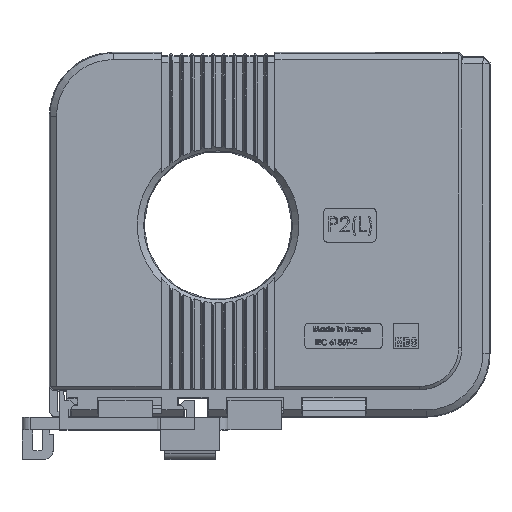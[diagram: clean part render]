
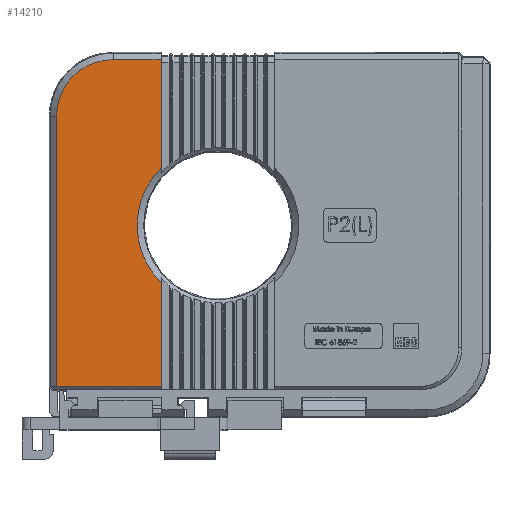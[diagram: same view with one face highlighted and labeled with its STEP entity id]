
A CAD part, top view. The second image highlights one B-rep face of the part: STEP entity #14210.
In plain terms, the highlighted planar face has unit normal (0, 0, 1).
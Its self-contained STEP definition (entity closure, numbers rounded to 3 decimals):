
#922 = LINE ( 'NONE', #26688, #26804 ) ;
#2634 = DIRECTION ( 'NONE',  ( 1., 0., 0. ) ) ;
#3687 = VERTEX_POINT ( 'NONE', #6343 ) ;
#4330 = CIRCLE ( 'NONE', #8411, 19.175 ) ;
#4913 = LINE ( 'NONE', #44698, #41102 ) ;
#5501 = VECTOR ( 'NONE', #44125, 1000. ) ;
#5857 = VERTEX_POINT ( 'NONE', #26895 ) ;
#6343 = CARTESIAN_POINT ( 'NONE',  ( -38.299, -38.232, 15. ) ) ;
#6991 = DIRECTION ( 'NONE',  ( -1., 0., 0. ) ) ;
#7096 = DIRECTION ( 'NONE',  ( 0., 0., -1. ) ) ;
#7142 = VECTOR ( 'NONE', #20150, 1000. ) ;
#7230 = LINE ( 'NONE', #21433, #7142 ) ;
#7441 = PLANE ( 'NONE',  #13428 ) ;
#7591 = CARTESIAN_POINT ( 'NONE',  ( 0., 0., 15. ) ) ;
#8411 = AXIS2_PLACEMENT_3D ( 'NONE', #36544, #15569, #40072 ) ;
#9147 = EDGE_CURVE ( 'NONE', #30299, #34258, #7230, .T. ) ;
#11102 = LINE ( 'NONE', #24660, #27521 ) ;
#11856 = B_SPLINE_CURVE_WITH_KNOTS ( 'NONE', 3,
 ( #39816, #39907, #40024, #39702, #39610, #39409, #39020, #38925, #38805, #38713, #38653, #38610, #38461, #38177, #38123, #38017, #37960, #37920 ),
 .UNSPECIFIED., .F., .F.,
 ( 4, 2, 2, 2, 2, 2, 2, 2, 4 ),
 ( 0., 0.003, 0.005, 0.008, 0.011, 0.013, 0.016, 0.018, 0.021 ),
 .UNSPECIFIED. ) ;
#13428 = AXIS2_PLACEMENT_3D ( 'NONE', #7591, #7096, #6991 ) ;
#14210 = ADVANCED_FACE ( 'NONE', ( #17256 ), #7441, .F. ) ;
#14221 = ORIENTED_EDGE ( 'NONE', *, *, #38293, .T. ) ;
#14641 = EDGE_CURVE ( 'NONE', #14729, #14992, #11856, .T. ) ;
#14729 = VERTEX_POINT ( 'NONE', #27931 ) ;
#14883 = LINE ( 'NONE', #29910, #5501 ) ;
#14992 = VERTEX_POINT ( 'NONE', #19164 ) ;
#15569 = DIRECTION ( 'NONE',  ( 0., 0., -1. ) ) ;
#15764 = CARTESIAN_POINT ( 'NONE',  ( -13.5, -38.233, 15. ) ) ;
#16453 = ORIENTED_EDGE ( 'NONE', *, *, #9147, .F. ) ;
#16874 = ORIENTED_EDGE ( 'NONE', *, *, #44647, .T. ) ;
#17256 = FACE_OUTER_BOUND ( 'NONE', #30300, .T. ) ;
#17600 = EDGE_CURVE ( 'NONE', #30428, #30792, #14883, .T. ) ;
#18530 = ORIENTED_EDGE ( 'NONE', *, *, #17600, .F. ) ;
#19162 = ORIENTED_EDGE ( 'NONE', *, *, #24205, .T. ) ;
#19164 = CARTESIAN_POINT ( 'NONE',  ( -38.299, 25.854, 15. ) ) ;
#19604 = CARTESIAN_POINT ( 'NONE',  ( -38.299, 0., 15. ) ) ;
#20150 = DIRECTION ( 'NONE',  ( 0., -1., 0. ) ) ;
#20770 = ORIENTED_EDGE ( 'NONE', *, *, #14641, .T. ) ;
#21402 = ORIENTED_EDGE ( 'NONE', *, *, #37397, .T. ) ;
#21433 = CARTESIAN_POINT ( 'NONE',  ( -13.5, -44.485, 15. ) ) ;
#22484 = LINE ( 'NONE', #19604, #40030 ) ;
#23706 = CARTESIAN_POINT ( 'NONE',  ( -13.5, 13.617, 15. ) ) ;
#24205 = EDGE_CURVE ( 'NONE', #30428, #14729, #11102, .T. ) ;
#24660 = CARTESIAN_POINT ( 'NONE',  ( 0., 39.299, 15. ) ) ;
#26688 = CARTESIAN_POINT ( 'NONE',  ( -38.513, -38.085, 15. ) ) ;
#26804 = VECTOR ( 'NONE', #40799, 1000. ) ;
#26895 = CARTESIAN_POINT ( 'NONE',  ( -38.298, -38.233, 15. ) ) ;
#27521 = VECTOR ( 'NONE', #28182, 1000. ) ;
#27931 = CARTESIAN_POINT ( 'NONE',  ( -24.854, 39.299, 15. ) ) ;
#28182 = DIRECTION ( 'NONE',  ( -1., 0., 0. ) ) ;
#29910 = CARTESIAN_POINT ( 'NONE',  ( -13.5, -44.485, 15. ) ) ;
#30299 = VERTEX_POINT ( 'NONE', #44576 ) ;
#30300 = EDGE_LOOP ( 'NONE', ( #14221, #16453, #16874, #18530, #19162, #20770, #21402, #38284 ) ) ;
#30428 = VERTEX_POINT ( 'NONE', #31453 ) ;
#30792 = VERTEX_POINT ( 'NONE', #23706 ) ;
#31453 = CARTESIAN_POINT ( 'NONE',  ( -13.5, 39.299, 15. ) ) ;
#34258 = VERTEX_POINT ( 'NONE', #15764 ) ;
#36544 = CARTESIAN_POINT ( 'NONE',  ( 0., 0., 15. ) ) ;
#37397 = EDGE_CURVE ( 'NONE', #14992, #3687, #22484, .T. ) ;
#37920 = CARTESIAN_POINT ( 'NONE',  ( -38.299, 25.854, 15. ) ) ;
#37960 = CARTESIAN_POINT ( 'NONE',  ( -38.299, 26.734, 15. ) ) ;
#38017 = CARTESIAN_POINT ( 'NONE',  ( -38.212, 27.614, 15. ) ) ;
#38123 = CARTESIAN_POINT ( 'NONE',  ( -37.869, 29.34, 15. ) ) ;
#38177 = CARTESIAN_POINT ( 'NONE',  ( -37.612, 30.186, 15. ) ) ;
#38284 = ORIENTED_EDGE ( 'NONE', *, *, #44760, .T. ) ;
#38293 = EDGE_CURVE ( 'NONE', #5857, #34258, #4913, .T. ) ;
#38461 = CARTESIAN_POINT ( 'NONE',  ( -36.939, 31.812, 15. ) ) ;
#38610 = CARTESIAN_POINT ( 'NONE',  ( -36.522, 32.592, 15. ) ) ;
#38653 = CARTESIAN_POINT ( 'NONE',  ( -35.544, 34.055, 15. ) ) ;
#38713 = CARTESIAN_POINT ( 'NONE',  ( -34.983, 34.739, 15. ) ) ;
#38805 = CARTESIAN_POINT ( 'NONE',  ( -33.739, 35.983, 15. ) ) ;
#38925 = CARTESIAN_POINT ( 'NONE',  ( -33.055, 36.544, 15. ) ) ;
#39020 = CARTESIAN_POINT ( 'NONE',  ( -31.592, 37.522, 15. ) ) ;
#39409 = CARTESIAN_POINT ( 'NONE',  ( -30.812, 37.939, 15. ) ) ;
#39610 = CARTESIAN_POINT ( 'NONE',  ( -29.186, 38.612, 15. ) ) ;
#39702 = CARTESIAN_POINT ( 'NONE',  ( -28.34, 38.869, 15. ) ) ;
#39816 = CARTESIAN_POINT ( 'NONE',  ( -24.854, 39.299, 15. ) ) ;
#39907 = CARTESIAN_POINT ( 'NONE',  ( -25.734, 39.299, 15. ) ) ;
#40024 = CARTESIAN_POINT ( 'NONE',  ( -26.614, 39.212, 15. ) ) ;
#40030 = VECTOR ( 'NONE', #40538, 1000. ) ;
#40072 = DIRECTION ( 'NONE',  ( -1., 0., 0. ) ) ;
#40538 = DIRECTION ( 'NONE',  ( 0., -1., 0. ) ) ;
#40799 = DIRECTION ( 'NONE',  ( 0.825, -0.566, 0. ) ) ;
#41102 = VECTOR ( 'NONE', #2634, 1000. ) ;
#44125 = DIRECTION ( 'NONE',  ( 0., -1., 0. ) ) ;
#44576 = CARTESIAN_POINT ( 'NONE',  ( -13.5, -13.617, 15. ) ) ;
#44647 = EDGE_CURVE ( 'NONE', #30299, #30792, #4330, .T. ) ;
#44698 = CARTESIAN_POINT ( 'NONE',  ( 0., -38.233, 15. ) ) ;
#44760 = EDGE_CURVE ( 'NONE', #3687, #5857, #922, .T. ) ;
